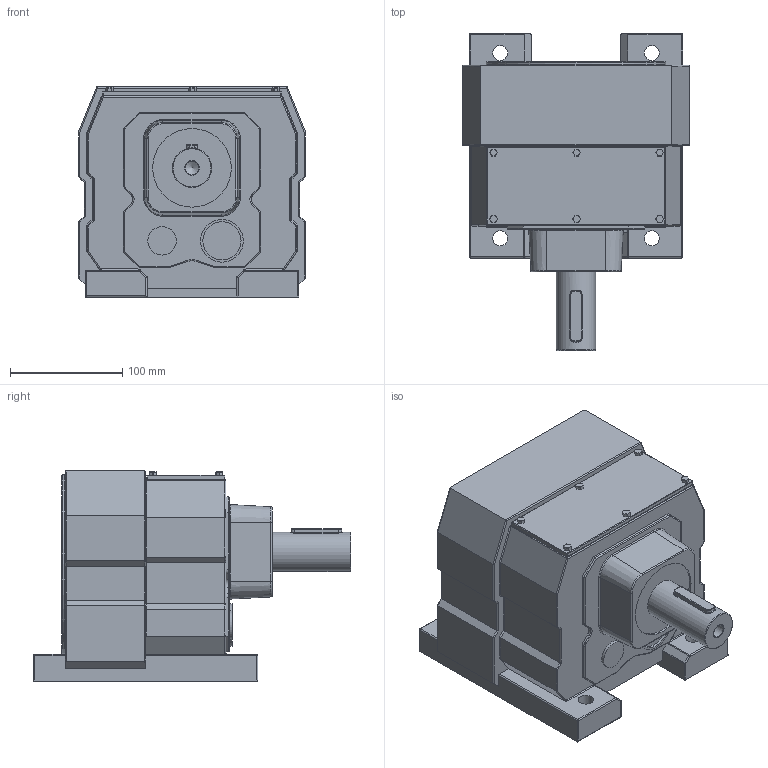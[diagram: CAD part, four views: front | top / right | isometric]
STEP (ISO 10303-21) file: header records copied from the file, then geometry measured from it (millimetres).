
FILE_DESCRIPTION((''),'2;1');
FILE_NAME('D:\PAWEŁ\ZLECENIA\2011 DualSystem\Przekładnie DR\DR50\STEP\DR50.stp','2012-06-11T12:03:32',('admin'),(''),'Autodesk Inventor 2009','Autodesk Inventor 2009','');
FILE_SCHEMA(('AUTOMOTIVE_DESIGN { 1 0 10303 214 1 1 1 1 }'));
Length unit declared in the file: millimetre
Products named in the file (1): DR50
Bounding box: 202 x 282.5 x 187 mm (x, y, z)
Volume: 5450179.9 mm3; surface area: 249981.8 mm2
Topology: 2 solids, 2 shells, 455 faces, 1071 edges, 590 vertices
Faces by surface type: cylinder 219, plane 141, sphere 52, bspline 20, torus 19, cone 4
Full cylindrical faces by diameter (mm): 13.5 x4, 18.5 x4, 25.333 x1, 34 x1, 35 x1, 38 x1, 70 x1, 120 x1, 160 x1
Entity records: 13839 total; most frequent: CARTESIAN_POINT 3418, DIRECTION 2279, ORIENTED_EDGE 1992, EDGE_CURVE 996, AXIS2_PLACEMENT_3D 861, VERTEX_POINT 588, VECTOR 557, LINE 557
